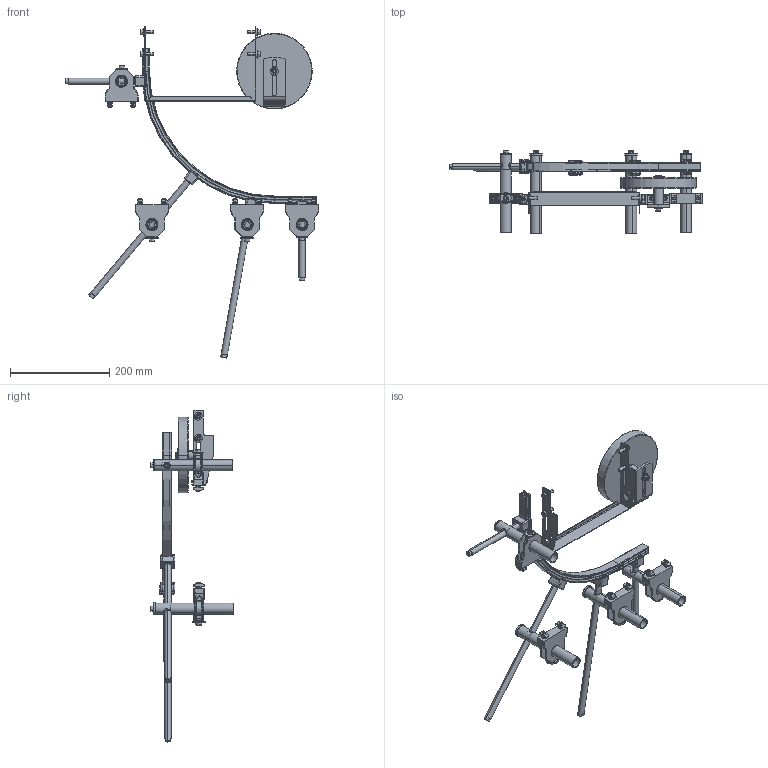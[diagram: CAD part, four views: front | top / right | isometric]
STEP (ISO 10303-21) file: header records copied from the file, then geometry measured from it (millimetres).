
FILE_DESCRIPTION((''),'2;1');
FILE_NAME('206524-08_ASM','2017-07-27T',('jenni.wallner'),(''),'PRO/ENGINEER BY PARAMETRIC TECHNOLOGY CORPORATION, 2012420','PRO/ENGINEER BY PARAMETRIC TECHNOLOGY CORPORATION, 2012420','');
FILE_SCHEMA(('CONFIG_CONTROL_DESIGN'));
Length unit declared in the file: inch
Products named in the file (34): 206382_206382_DRAFTS; 9706XXM_970620M; 206380; 807-920; 9206XXM_920614M; 206685; 807-2859_91760A321; 911-710_911-710; 206383_206383; 206385_0_875OD; 234013M; 206397_206397; 206381_206381; 990601M; 207139_207139-08B_ASM; 9206XXM_9206150M; 206386; 911-709_91090A107; X26235_206686-1_ASM; 9206XXM_920620M; 207125-WW_207125-08; 915-218; X26235_206686-2_ASM; 9206XXM_920616M; 234006; 234005M; 605279P; 234007M; 200830M; 207138-WW_8; 207139_207139-08A_ASM; 234003M; ASM0001_ASM; 206524-08_ASM
Assembly tree (101 placements, depth 4):
  206524-08_ASM
    ASM0001_ASM
      207139_207139-08B_ASM
        206382_206382_DRAFTS
        9706XXM_970620M
        206380
        807-920  x2
        9206XXM_920614M  x2
        206685  x2
        807-2859_91760A321  x2
        911-710_911-710  x2
        206383_206383
        206385_0_875OD
        234013M
        206397_206397
        206381_206381
        990601M
      X26235_206686-1_ASM
        9206XXM_9206150M
        9206XXM_920614M  x2
        206397_206397
        206381_206381
        206382_206382_DRAFTS
        206386
        807-2859_91760A321  x2
        911-709_91090A107  x2
        990601M
        206685  x2
        206380
        206385_0_875OD
        206383_206383
        807-920  x2
      9206XXM_920620M  x4
      207125-WW_207125-08
      915-218
      X26235_206686-2_ASM
        911-709_91090A107  x2
        206397_206397
        206386
        206685  x2
        807-2859_91760A321  x2
        206381_206381
        9206XXM_920614M  x2
        206382_206382_DRAFTS
        807-920  x2
        9206XXM_9206150M
        206385_0_875OD
        206383_206383
        990601M
        206380
      9206XXM_920616M
      234006
      234005M
      605279P  x5
      234007M
      9206XXM_920614M  x2
      200830M
      207138-WW_8
      207139_207139-08A_ASM
        807-2859_91760A321  x2
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Bounding box: 510.81 x 166.66 x 669.72 mm (x, y, z)
Volume: 859165.4 mm3; surface area: 448650.2 mm2
Topology: 96 solids, 96 shells, 3832 faces, 9075 edges, 5298 vertices
Faces by surface type: cylinder 1326, plane 1066, cone 610, bspline 418, torus 316, sphere 96
Entity records: 57275 total; most frequent: CARTESIAN_POINT 29715, DIRECTION 5809, ORIENTED_EDGE 5464, EDGE_CURVE 2732, AXIS2_PLACEMENT_3D 2313, VERTEX_POINT 1642, EDGE_LOOP 1240, VECTOR 1183
